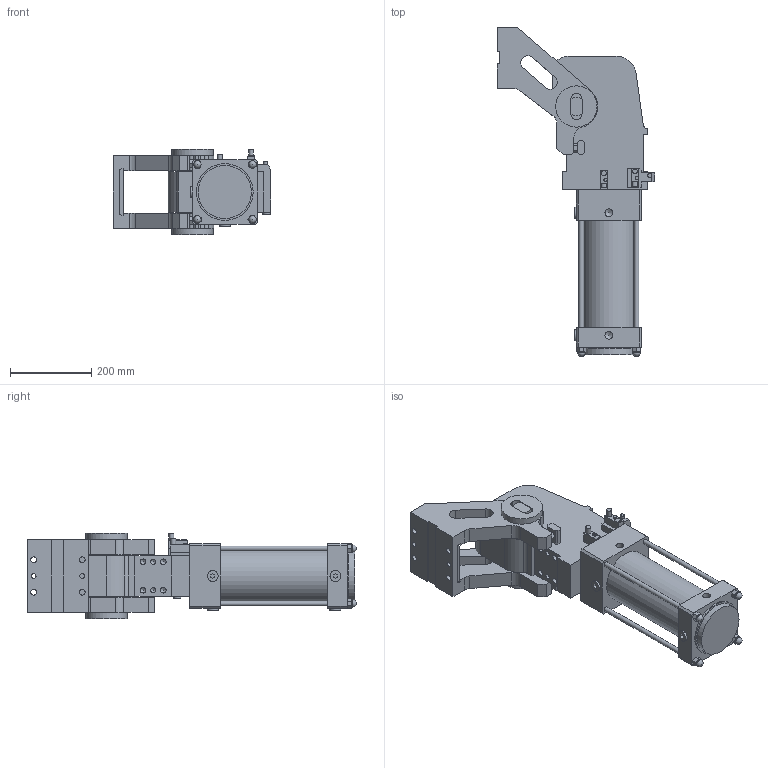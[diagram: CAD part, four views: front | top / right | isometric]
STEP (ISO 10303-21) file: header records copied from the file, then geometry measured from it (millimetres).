
FILE_DESCRIPTION(/* description */ (''),/* implementation_level */ '2;1');
FILE_NAME(/* name */ 'S:\Tom\INVENTOR FILES\AUTOMOTIVE\VEP\DUMP UNITS\C05.P015 RFM.2-RF.2\C05.P015 RFM.2-RF.2\RFM125\SATs\XPUZ125.2-129-3-ESL-P-G-X.stp',/* time_stamp */ '2018-07-29T17:48:11+01:00',/* author */ ('carl'),/* organization */ (''),/* preprocessor_version */ 'ST-DEVELOPER v16.13',/* originating_system */ 'Autodesk Inventor 2018',/* authorisation */ '');
FILE_SCHEMA (('AUTOMOTIVE_DESIGN { 1 0 10303 214 3 1 1 }'));
Length unit declared in the file: millimetre
Products named in the file (11): XPUZ125.2-129-3-ESL-P-G-X_TOP; XPUZ125; XPUZ125_1; XPUZ125_2; XPUZ125_3; XPUZ125_4; XPUZ125_5; XPUZ125_6; XPUZ125_7; XPUZ125_8; XPUZ125_9
Assembly tree (10 placements, depth 2):
  XPUZ125.2-129-3-ESL-P-G-X_TOP
    XPUZ125
    XPUZ125_1
    XPUZ125_2
    XPUZ125_3
    XPUZ125_4
    XPUZ125_5
    XPUZ125_6
    XPUZ125_7
    XPUZ125_8
    XPUZ125_9
Bounding box: 388 x 811.5 x 212 mm (x, y, z)
Volume: 16884997.2 mm3; surface area: 912817.8 mm2
Topology: 10 solids, 10 shells, 392 faces, 966 edges, 635 vertices
Faces by surface type: plane 268, cylinder 102, cone 18, sphere 4
Full cylindrical faces by diameter (mm): 5.5 x2, 8.5 x2, 10 x3, 10.2 x1, 11.8 x2, 12 x12, 13 x1, 14 x12, 18 x5, 19 x6, 20.6 x4, 27 x4, 45 x1, 50.5 x1, 60 x2, 102 x2, 130 x1, 131 x1, 140 x1
Entity records: 11281 total; most frequent: DIRECTION 1888, CARTESIAN_POINT 1871, ORIENTED_EDGE 1704, EDGE_CURVE 852, LINE 642, VECTOR 642, AXIS2_PLACEMENT_3D 623, VERTEX_POINT 606
